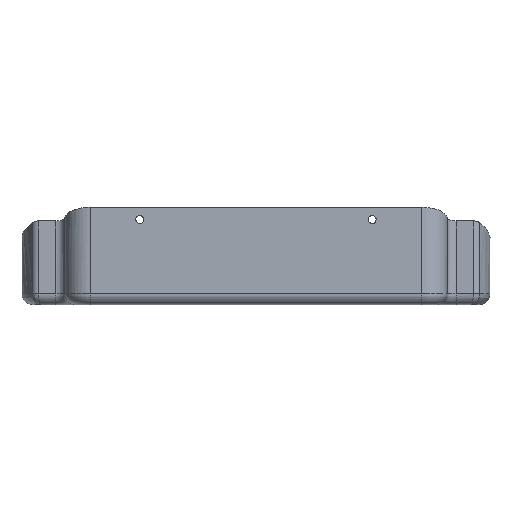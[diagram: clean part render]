
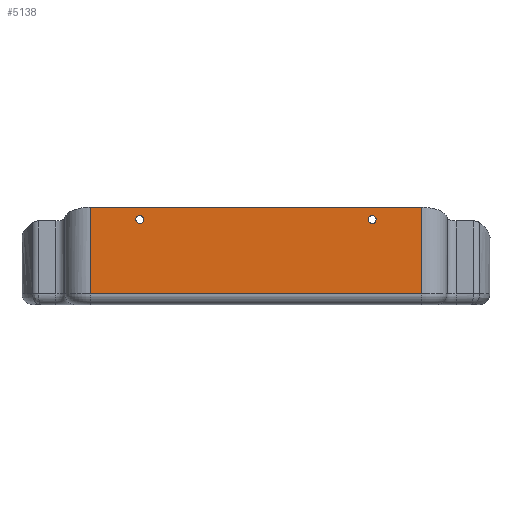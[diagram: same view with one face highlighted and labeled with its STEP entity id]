
A CAD part, front view. The second image highlights one B-rep face of the part: STEP entity #5138.
In plain terms, the highlighted planar face has unit normal (0, -1, 0).
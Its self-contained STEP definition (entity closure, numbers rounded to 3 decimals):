
#51 = FACE_OUTER_BOUND ( 'NONE', #4970, .T. ) ;
#77 = PLANE ( 'NONE',  #3325 ) ;
#126 = DIRECTION ( 'NONE',  ( 0., 0., -1. ) ) ;
#164 = CARTESIAN_POINT ( 'NONE',  ( 10.769, -36.835, 2. ) ) ;
#165 = ORIENTED_EDGE ( 'NONE', *, *, #3674, .T. ) ;
#176 = ORIENTED_EDGE ( 'NONE', *, *, #603, .F. ) ;
#302 = CARTESIAN_POINT ( 'NONE',  ( -2.899, -36.834, 21.359 ) ) ;
#469 = CARTESIAN_POINT ( 'NONE',  ( -66.899, -36.834, 21.359 ) ) ;
#472 = CARTESIAN_POINT ( 'NONE',  ( -64.699, -36.834, 21.359 ) ) ;
#482 = VERTEX_POINT ( 'NONE', #4532 ) ;
#578 = VERTEX_POINT ( 'NONE', #2415 ) ;
#603 = EDGE_CURVE ( 'NONE', #482, #5038, #657, .T. ) ;
#657 =( BOUNDED_CURVE ( )  B_SPLINE_CURVE ( 3, ( #2827, #2068, #4063, #469 ),
 .UNSPECIFIED., .F., .F. ) 
 B_SPLINE_CURVE_WITH_KNOTS ( ( 4, 4 ),
 ( 0.004, 3.146 ),
 .UNSPECIFIED. ) 
 CURVE ( )  GEOMETRIC_REPRESENTATION_ITEM ( )  RATIONAL_B_SPLINE_CURVE ( ( 1., 0.333, 0.333, 1. ) ) 
 REPRESENTATION_ITEM ( '' )  );
#722 = CARTESIAN_POINT ( 'NONE',  ( -5.099, -36.834, 21.359 ) ) ;
#743 = EDGE_CURVE ( 'NONE', #4753, #2223, #1429, .T. ) ;
#800 = CARTESIAN_POINT ( 'NONE',  ( -87.527, -36.835, 1.999 ) ) ;
#811 = CARTESIAN_POINT ( 'NONE',  ( -2.899, -36.834, 21.359 ) ) ;
#828 = CARTESIAN_POINT ( 'NONE',  ( -80.566, -36.835, -1.001 ) ) ;
#884 = CARTESIAN_POINT ( 'NONE',  ( -66.899, -36.834, 21.359 ) ) ;
#1070 = DIRECTION ( 'NONE',  ( -1., 0., 0. ) ) ;
#1092 = CARTESIAN_POINT ( 'NONE',  ( -5.099, -36.834, 23.559 ) ) ;
#1101 = EDGE_CURVE ( 'NONE', #578, #4753, #4397, .T. ) ;
#1102 = CARTESIAN_POINT ( 'NONE',  ( -2.899, -36.834, 21.359 ) ) ;
#1235 = VECTOR ( 'NONE', #3985, 1000. ) ;
#1240 =( BOUNDED_CURVE ( )  B_SPLINE_CURVE ( 3, ( #811, #4454, #4555, #2583 ),
 .UNSPECIFIED., .F., .T. ) 
 B_SPLINE_CURVE_WITH_KNOTS ( ( 4, 4 ),
 ( 3.146, 6.287 ),
 .UNSPECIFIED. ) 
 CURVE ( )  GEOMETRIC_REPRESENTATION_ITEM ( )  RATIONAL_B_SPLINE_CURVE ( ( 1., 0.333, 0.333, 1. ) ) 
 REPRESENTATION_ITEM ( '' )  );
#1377 = EDGE_LOOP ( 'NONE', ( #2668, #2687 ) ) ;
#1407 = CARTESIAN_POINT ( 'NONE',  ( -2.899, -36.834, 23.559 ) ) ;
#1429 = LINE ( 'NONE', #2270, #3459 ) ;
#1534 = ORIENTED_EDGE ( 'NONE', *, *, #1706, .F. ) ;
#1601 = VERTEX_POINT ( 'NONE', #1102 ) ;
#1623 = ORIENTED_EDGE ( 'NONE', *, *, #3775, .T. ) ;
#1706 = EDGE_CURVE ( 'NONE', #5038, #482, #5156, .T. ) ;
#1718 = VECTOR ( 'NONE', #2432, 1000. ) ;
#1817 = EDGE_CURVE ( 'NONE', #1601, #2035, #1240, .T. ) ;
#2035 = VERTEX_POINT ( 'NONE', #2693 ) ;
#2068 = CARTESIAN_POINT ( 'NONE',  ( -69.099, -36.834, 23.559 ) ) ;
#2074 = CARTESIAN_POINT ( 'NONE',  ( -87.527, -36.829, 160.638 ) ) ;
#2223 = VERTEX_POINT ( 'NONE', #4573 ) ;
#2270 = CARTESIAN_POINT ( 'NONE',  ( 10.769, -36.834, 25.809 ) ) ;
#2273 = CARTESIAN_POINT ( 'NONE',  ( -87.527, -36.834, 25.809 ) ) ;
#2299 = LINE ( 'NONE', #2273, #2816 ) ;
#2415 = CARTESIAN_POINT ( 'NONE',  ( -80.566, -36.835, 1.999 ) ) ;
#2432 = DIRECTION ( 'NONE',  ( 1., 0., 0. ) ) ;
#2458 = EDGE_CURVE ( 'NONE', #2035, #1601, #2672, .T. ) ;
#2583 = CARTESIAN_POINT ( 'NONE',  ( -2.899, -36.834, 23.559 ) ) ;
#2668 = ORIENTED_EDGE ( 'NONE', *, *, #2458, .F. ) ;
#2672 =( BOUNDED_CURVE ( )  B_SPLINE_CURVE ( 3, ( #1407, #1092, #722, #302 ),
 .UNSPECIFIED., .F., .F. ) 
 B_SPLINE_CURVE_WITH_KNOTS ( ( 4, 4 ),
 ( 0.004, 3.146 ),
 .UNSPECIFIED. ) 
 CURVE ( )  GEOMETRIC_REPRESENTATION_ITEM ( )  RATIONAL_B_SPLINE_CURVE ( ( 1., 0.333, 0.333, 1. ) ) 
 REPRESENTATION_ITEM ( '' )  );
#2687 = ORIENTED_EDGE ( 'NONE', *, *, #1817, .F. ) ;
#2693 = CARTESIAN_POINT ( 'NONE',  ( -2.899, -36.834, 23.559 ) ) ;
#2816 = VECTOR ( 'NONE', #1070, 1000. ) ;
#2827 = CARTESIAN_POINT ( 'NONE',  ( -66.899, -36.834, 23.559 ) ) ;
#3178 = CARTESIAN_POINT ( 'NONE',  ( -80.566, -36.834, 25.809 ) ) ;
#3325 = AXIS2_PLACEMENT_3D ( 'NONE', #2074, #4851, #126 ) ;
#3459 = VECTOR ( 'NONE', #4286, 1000. ) ;
#3541 = VERTEX_POINT ( 'NONE', #3178 ) ;
#3558 = CARTESIAN_POINT ( 'NONE',  ( -66.899, -36.834, 21.359 ) ) ;
#3674 = EDGE_CURVE ( 'NONE', #2223, #3541, #2299, .T. ) ;
#3704 = FACE_BOUND ( 'NONE', #4630, .T. ) ;
#3775 = EDGE_CURVE ( 'NONE', #3541, #578, #5128, .T. ) ;
#3967 = CARTESIAN_POINT ( 'NONE',  ( -64.699, -36.834, 23.559 ) ) ;
#3985 = DIRECTION ( 'NONE',  ( 0., 0., -1. ) ) ;
#4021 = FACE_BOUND ( 'NONE', #1377, .T. ) ;
#4063 = CARTESIAN_POINT ( 'NONE',  ( -69.099, -36.834, 21.359 ) ) ;
#4185 = ORIENTED_EDGE ( 'NONE', *, *, #743, .T. ) ;
#4286 = DIRECTION ( 'NONE',  ( 0., 0., 1. ) ) ;
#4350 = CARTESIAN_POINT ( 'NONE',  ( -66.899, -36.834, 23.559 ) ) ;
#4397 = LINE ( 'NONE', #800, #1718 ) ;
#4454 = CARTESIAN_POINT ( 'NONE',  ( -0.699, -36.834, 21.359 ) ) ;
#4532 = CARTESIAN_POINT ( 'NONE',  ( -66.899, -36.834, 23.559 ) ) ;
#4555 = CARTESIAN_POINT ( 'NONE',  ( -0.699, -36.834, 23.559 ) ) ;
#4573 = CARTESIAN_POINT ( 'NONE',  ( 10.769, -36.834, 25.809 ) ) ;
#4630 = EDGE_LOOP ( 'NONE', ( #176, #1534 ) ) ;
#4753 = VERTEX_POINT ( 'NONE', #164 ) ;
#4806 = ORIENTED_EDGE ( 'NONE', *, *, #1101, .T. ) ;
#4851 = DIRECTION ( 'NONE',  ( 0., -1., 0. ) ) ;
#4970 = EDGE_LOOP ( 'NONE', ( #1623, #4806, #4185, #165 ) ) ;
#5038 = VERTEX_POINT ( 'NONE', #3558 ) ;
#5128 = LINE ( 'NONE', #828, #1235 ) ;
#5138 = ADVANCED_FACE ( 'NONE', ( #4021, #3704, #51 ), #77, .T. ) ;
#5156 =( BOUNDED_CURVE ( )  B_SPLINE_CURVE ( 3, ( #884, #472, #3967, #4350 ),
 .UNSPECIFIED., .F., .F. ) 
 B_SPLINE_CURVE_WITH_KNOTS ( ( 4, 4 ),
 ( 3.146, 6.287 ),
 .UNSPECIFIED. ) 
 CURVE ( )  GEOMETRIC_REPRESENTATION_ITEM ( )  RATIONAL_B_SPLINE_CURVE ( ( 1., 0.333, 0.333, 1. ) ) 
 REPRESENTATION_ITEM ( '' )  );
